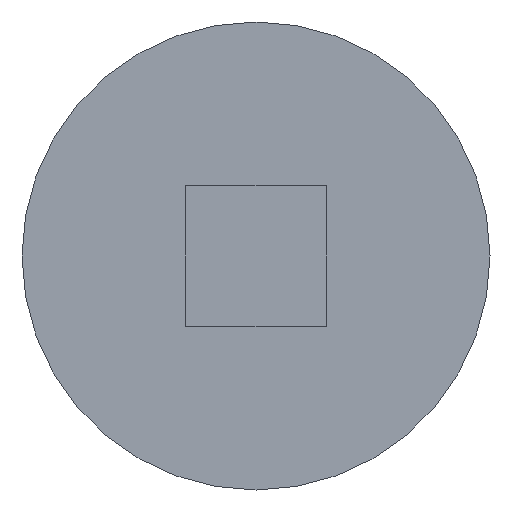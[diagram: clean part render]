
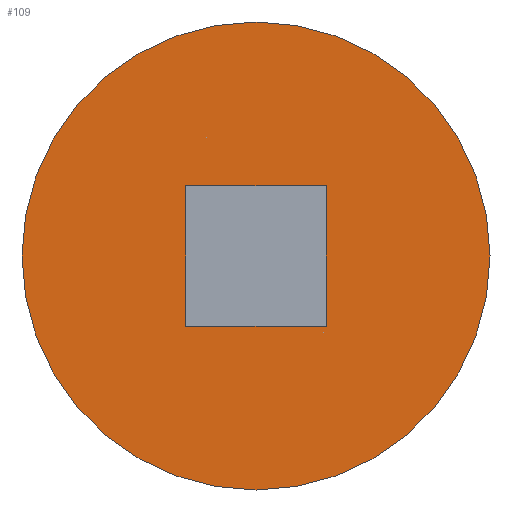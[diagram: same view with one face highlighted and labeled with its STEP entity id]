
A CAD part, left-side view. The second image highlights one B-rep face of the part: STEP entity #109.
In plain terms, the highlighted planar face has unit normal (-1, 0, 0).
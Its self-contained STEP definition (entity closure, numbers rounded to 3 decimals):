
#31 = CYLINDRICAL_SURFACE('',#32,5.);
#32 = AXIS2_PLACEMENT_3D('',#33,#34,#35);
#33 = CARTESIAN_POINT('',(40.,2.,14.25));
#34 = DIRECTION('',(-1.,-0.,-0.));
#35 = DIRECTION('',(0.,1.,0.));
#56 = VERTEX_POINT('',#57);
#57 = CARTESIAN_POINT('',(39.3,7.,14.25));
#78 = EDGE_CURVE('',#56,#56,#79,.T.);
#79 = SURFACE_CURVE('',#80,(#85,#92),.PCURVE_S1.);
#80 = CIRCLE('',#81,5.);
#81 = AXIS2_PLACEMENT_3D('',#82,#83,#84);
#82 = CARTESIAN_POINT('',(39.3,2.,14.25));
#83 = DIRECTION('',(1.,0.,0.));
#84 = DIRECTION('',(-0.,1.,0.));
#85 = PCURVE('',#31,#86);
#86 = DEFINITIONAL_REPRESENTATION('',(#87),#91);
#87 = LINE('',#88,#89);
#88 = CARTESIAN_POINT('',(6.283,0.7));
#89 = VECTOR('',#90,1.);
#90 = DIRECTION('',(-1.,-0.));
#91 = ( GEOMETRIC_REPRESENTATION_CONTEXT(2) 
PARAMETRIC_REPRESENTATION_CONTEXT() REPRESENTATION_CONTEXT('2D SPACE',''
  ) );
#92 = PCURVE('',#93,#98);
#93 = PLANE('',#94);
#94 = AXIS2_PLACEMENT_3D('',#95,#96,#97);
#95 = CARTESIAN_POINT('',(39.3,2.,14.25));
#96 = DIRECTION('',(1.,0.,0.));
#97 = DIRECTION('',(-0.,0.,1.));
#98 = DEFINITIONAL_REPRESENTATION('',(#99),#103);
#99 = CIRCLE('',#100,5.);
#100 = AXIS2_PLACEMENT_2D('',#101,#102);
#101 = CARTESIAN_POINT('',(0.,0.));
#102 = DIRECTION('',(0.,-1.));
#103 = ( GEOMETRIC_REPRESENTATION_CONTEXT(2) 
PARAMETRIC_REPRESENTATION_CONTEXT() REPRESENTATION_CONTEXT('2D SPACE',''
  ) );
#109 = ADVANCED_FACE('',(#110,#113),#93,.F.);
#110 = FACE_BOUND('',#111,.F.);
#111 = EDGE_LOOP('',(#112));
#112 = ORIENTED_EDGE('',*,*,#78,.T.);
#113 = FACE_BOUND('',#114,.F.);
#114 = EDGE_LOOP('',(#115,#145,#173,#201));
#115 = ORIENTED_EDGE('',*,*,#116,.T.);
#116 = EDGE_CURVE('',#117,#119,#121,.T.);
#117 = VERTEX_POINT('',#118);
#118 = CARTESIAN_POINT('',(39.3,0.5,12.75));
#119 = VERTEX_POINT('',#120);
#120 = CARTESIAN_POINT('',(39.3,0.5,15.75));
#121 = SURFACE_CURVE('',#122,(#126,#133),.PCURVE_S1.);
#122 = LINE('',#123,#124);
#123 = CARTESIAN_POINT('',(39.3,0.5,12.75));
#124 = VECTOR('',#125,1.);
#125 = DIRECTION('',(0.,0.,1.));
#126 = PCURVE('',#93,#127);
#127 = DEFINITIONAL_REPRESENTATION('',(#128),#132);
#128 = LINE('',#129,#130);
#129 = CARTESIAN_POINT('',(-1.5,1.5));
#130 = VECTOR('',#131,1.);
#131 = DIRECTION('',(1.,0.));
#132 = ( GEOMETRIC_REPRESENTATION_CONTEXT(2) 
PARAMETRIC_REPRESENTATION_CONTEXT() REPRESENTATION_CONTEXT('2D SPACE',''
  ) );
#133 = PCURVE('',#134,#139);
#134 = PLANE('',#135);
#135 = AXIS2_PLACEMENT_3D('',#136,#137,#138);
#136 = CARTESIAN_POINT('',(38.2,0.5,12.75));
#137 = DIRECTION('',(0.,1.,0.));
#138 = DIRECTION('',(0.,0.,1.));
#139 = DEFINITIONAL_REPRESENTATION('',(#140),#144);
#140 = LINE('',#141,#142);
#141 = CARTESIAN_POINT('',(0.,1.1));
#142 = VECTOR('',#143,1.);
#143 = DIRECTION('',(1.,0.));
#144 = ( GEOMETRIC_REPRESENTATION_CONTEXT(2) 
PARAMETRIC_REPRESENTATION_CONTEXT() REPRESENTATION_CONTEXT('2D SPACE',''
  ) );
#145 = ORIENTED_EDGE('',*,*,#146,.T.);
#146 = EDGE_CURVE('',#119,#147,#149,.T.);
#147 = VERTEX_POINT('',#148);
#148 = CARTESIAN_POINT('',(39.3,3.5,15.75));
#149 = SURFACE_CURVE('',#150,(#154,#161),.PCURVE_S1.);
#150 = LINE('',#151,#152);
#151 = CARTESIAN_POINT('',(39.3,0.5,15.75));
#152 = VECTOR('',#153,1.);
#153 = DIRECTION('',(0.,1.,0.));
#154 = PCURVE('',#93,#155);
#155 = DEFINITIONAL_REPRESENTATION('',(#156),#160);
#156 = LINE('',#157,#158);
#157 = CARTESIAN_POINT('',(1.5,1.5));
#158 = VECTOR('',#159,1.);
#159 = DIRECTION('',(0.,-1.));
#160 = ( GEOMETRIC_REPRESENTATION_CONTEXT(2) 
PARAMETRIC_REPRESENTATION_CONTEXT() REPRESENTATION_CONTEXT('2D SPACE',''
  ) );
#161 = PCURVE('',#162,#167);
#162 = PLANE('',#163);
#163 = AXIS2_PLACEMENT_3D('',#164,#165,#166);
#164 = CARTESIAN_POINT('',(38.2,0.5,15.75));
#165 = DIRECTION('',(0.,0.,1.));
#166 = DIRECTION('',(1.,0.,0.));
#167 = DEFINITIONAL_REPRESENTATION('',(#168),#172);
#168 = LINE('',#169,#170);
#169 = CARTESIAN_POINT('',(1.1,0.));
#170 = VECTOR('',#171,1.);
#171 = DIRECTION('',(0.,1.));
#172 = ( GEOMETRIC_REPRESENTATION_CONTEXT(2) 
PARAMETRIC_REPRESENTATION_CONTEXT() REPRESENTATION_CONTEXT('2D SPACE',''
  ) );
#173 = ORIENTED_EDGE('',*,*,#174,.F.);
#174 = EDGE_CURVE('',#175,#147,#177,.T.);
#175 = VERTEX_POINT('',#176);
#176 = CARTESIAN_POINT('',(39.3,3.5,12.75));
#177 = SURFACE_CURVE('',#178,(#182,#189),.PCURVE_S1.);
#178 = LINE('',#179,#180);
#179 = CARTESIAN_POINT('',(39.3,3.5,12.75));
#180 = VECTOR('',#181,1.);
#181 = DIRECTION('',(0.,0.,1.));
#182 = PCURVE('',#93,#183);
#183 = DEFINITIONAL_REPRESENTATION('',(#184),#188);
#184 = LINE('',#185,#186);
#185 = CARTESIAN_POINT('',(-1.5,-1.5));
#186 = VECTOR('',#187,1.);
#187 = DIRECTION('',(1.,0.));
#188 = ( GEOMETRIC_REPRESENTATION_CONTEXT(2) 
PARAMETRIC_REPRESENTATION_CONTEXT() REPRESENTATION_CONTEXT('2D SPACE',''
  ) );
#189 = PCURVE('',#190,#195);
#190 = PLANE('',#191);
#191 = AXIS2_PLACEMENT_3D('',#192,#193,#194);
#192 = CARTESIAN_POINT('',(38.2,3.5,12.75));
#193 = DIRECTION('',(0.,1.,0.));
#194 = DIRECTION('',(0.,0.,1.));
#195 = DEFINITIONAL_REPRESENTATION('',(#196),#200);
#196 = LINE('',#197,#198);
#197 = CARTESIAN_POINT('',(0.,1.1));
#198 = VECTOR('',#199,1.);
#199 = DIRECTION('',(1.,0.));
#200 = ( GEOMETRIC_REPRESENTATION_CONTEXT(2) 
PARAMETRIC_REPRESENTATION_CONTEXT() REPRESENTATION_CONTEXT('2D SPACE',''
  ) );
#201 = ORIENTED_EDGE('',*,*,#202,.F.);
#202 = EDGE_CURVE('',#117,#175,#203,.T.);
#203 = SURFACE_CURVE('',#204,(#208,#215),.PCURVE_S1.);
#204 = LINE('',#205,#206);
#205 = CARTESIAN_POINT('',(39.3,0.5,12.75));
#206 = VECTOR('',#207,1.);
#207 = DIRECTION('',(0.,1.,0.));
#208 = PCURVE('',#93,#209);
#209 = DEFINITIONAL_REPRESENTATION('',(#210),#214);
#210 = LINE('',#211,#212);
#211 = CARTESIAN_POINT('',(-1.5,1.5));
#212 = VECTOR('',#213,1.);
#213 = DIRECTION('',(0.,-1.));
#214 = ( GEOMETRIC_REPRESENTATION_CONTEXT(2) 
PARAMETRIC_REPRESENTATION_CONTEXT() REPRESENTATION_CONTEXT('2D SPACE',''
  ) );
#215 = PCURVE('',#216,#221);
#216 = PLANE('',#217);
#217 = AXIS2_PLACEMENT_3D('',#218,#219,#220);
#218 = CARTESIAN_POINT('',(38.2,0.5,12.75));
#219 = DIRECTION('',(0.,0.,1.));
#220 = DIRECTION('',(1.,0.,0.));
#221 = DEFINITIONAL_REPRESENTATION('',(#222),#226);
#222 = LINE('',#223,#224);
#223 = CARTESIAN_POINT('',(1.1,0.));
#224 = VECTOR('',#225,1.);
#225 = DIRECTION('',(0.,1.));
#226 = ( GEOMETRIC_REPRESENTATION_CONTEXT(2) 
PARAMETRIC_REPRESENTATION_CONTEXT() REPRESENTATION_CONTEXT('2D SPACE',''
  ) );
